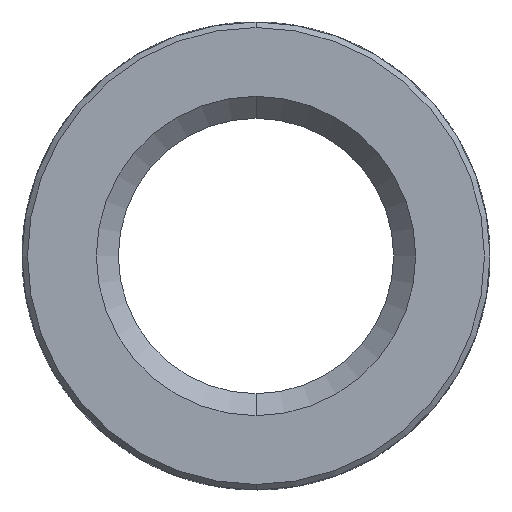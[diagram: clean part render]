
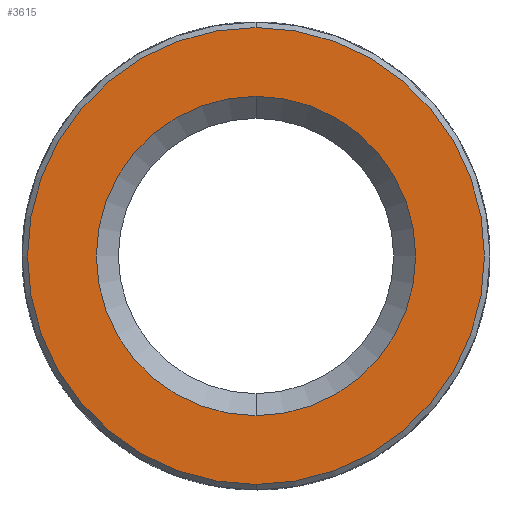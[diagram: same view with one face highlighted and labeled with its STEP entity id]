
A CAD part, front view. The second image highlights one B-rep face of the part: STEP entity #3615.
In plain terms, the highlighted planar face has unit normal (0, -1, 0).
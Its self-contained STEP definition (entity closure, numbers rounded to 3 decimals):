
#11 = DIRECTION ( 'NONE',  ( 0., 0., -1. ) ) ;
#20 = FACE_OUTER_BOUND ( 'NONE', #3060, .T. ) ;
#25 = CARTESIAN_POINT ( 'NONE',  ( 0., -8.3, 2.9 ) ) ;
#76 = EDGE_LOOP ( 'NONE', ( #1273, #906 ) ) ;
#114 = CIRCLE ( 'NONE', #1139, 2.9 ) ;
#283 = EDGE_CURVE ( 'NONE', #3106, #670, #2876, .T. ) ;
#333 = DIRECTION ( 'NONE',  ( 0., 1., 0. ) ) ;
#479 = FACE_BOUND ( 'NONE', #76, .T. ) ;
#528 = DIRECTION ( 'NONE',  ( 0., -1., 0. ) ) ;
#670 = VERTEX_POINT ( 'NONE', #3595 ) ;
#842 = EDGE_CURVE ( 'NONE', #670, #3106, #1239, .T. ) ;
#854 = AXIS2_PLACEMENT_3D ( 'NONE', #1191, #333, #11 ) ;
#858 = DIRECTION ( 'NONE',  ( 0., 0., -1. ) ) ;
#906 = ORIENTED_EDGE ( 'NONE', *, *, #3243, .T. ) ;
#1029 = AXIS2_PLACEMENT_3D ( 'NONE', #2618, #2035, #858 ) ;
#1120 = CARTESIAN_POINT ( 'NONE',  ( 0., -8.3, 4.25 ) ) ;
#1139 = AXIS2_PLACEMENT_3D ( 'NONE', #1519, #1503, #3520 ) ;
#1191 = CARTESIAN_POINT ( 'NONE',  ( 0., -8.3, 0. ) ) ;
#1239 = CIRCLE ( 'NONE', #1461, 4.15 ) ;
#1273 = ORIENTED_EDGE ( 'NONE', *, *, #1548, .T. ) ;
#1367 = CIRCLE ( 'NONE', #854, 2.9 ) ;
#1461 = AXIS2_PLACEMENT_3D ( 'NONE', #2003, #528, #2573 ) ;
#1503 = DIRECTION ( 'NONE',  ( 0., 1., 0. ) ) ;
#1519 = CARTESIAN_POINT ( 'NONE',  ( 0., -8.3, 0. ) ) ;
#1548 = EDGE_CURVE ( 'NONE', #2755, #3281, #1367, .T. ) ;
#2003 = CARTESIAN_POINT ( 'NONE',  ( 0., -8.3, 0. ) ) ;
#2035 = DIRECTION ( 'NONE',  ( 0., -1., 0. ) ) ;
#2150 = ORIENTED_EDGE ( 'NONE', *, *, #283, .T. ) ;
#2157 = ORIENTED_EDGE ( 'NONE', *, *, #842, .T. ) ;
#2573 = DIRECTION ( 'NONE',  ( 0., 0., -1. ) ) ;
#2605 = CARTESIAN_POINT ( 'NONE',  ( 0., -8.3, 4.15 ) ) ;
#2618 = CARTESIAN_POINT ( 'NONE',  ( 0., -8.3, 0. ) ) ;
#2755 = VERTEX_POINT ( 'NONE', #3234 ) ;
#2852 = PLANE ( 'NONE',  #2991 ) ;
#2876 = CIRCLE ( 'NONE', #1029, 4.15 ) ;
#2937 = DIRECTION ( 'NONE',  ( 0., -1., 0. ) ) ;
#2991 = AXIS2_PLACEMENT_3D ( 'NONE', #1120, #2937, #3538 ) ;
#3060 = EDGE_LOOP ( 'NONE', ( #2150, #2157 ) ) ;
#3106 = VERTEX_POINT ( 'NONE', #2605 ) ;
#3234 = CARTESIAN_POINT ( 'NONE',  ( 0., -8.3, -2.9 ) ) ;
#3243 = EDGE_CURVE ( 'NONE', #3281, #2755, #114, .T. ) ;
#3281 = VERTEX_POINT ( 'NONE', #25 ) ;
#3520 = DIRECTION ( 'NONE',  ( 0., 0., -1. ) ) ;
#3538 = DIRECTION ( 'NONE',  ( 0., 0., -1. ) ) ;
#3595 = CARTESIAN_POINT ( 'NONE',  ( 0., -8.3, -4.15 ) ) ;
#3615 = ADVANCED_FACE ( 'NONE', ( #20, #479 ), #2852, .T. ) ;
